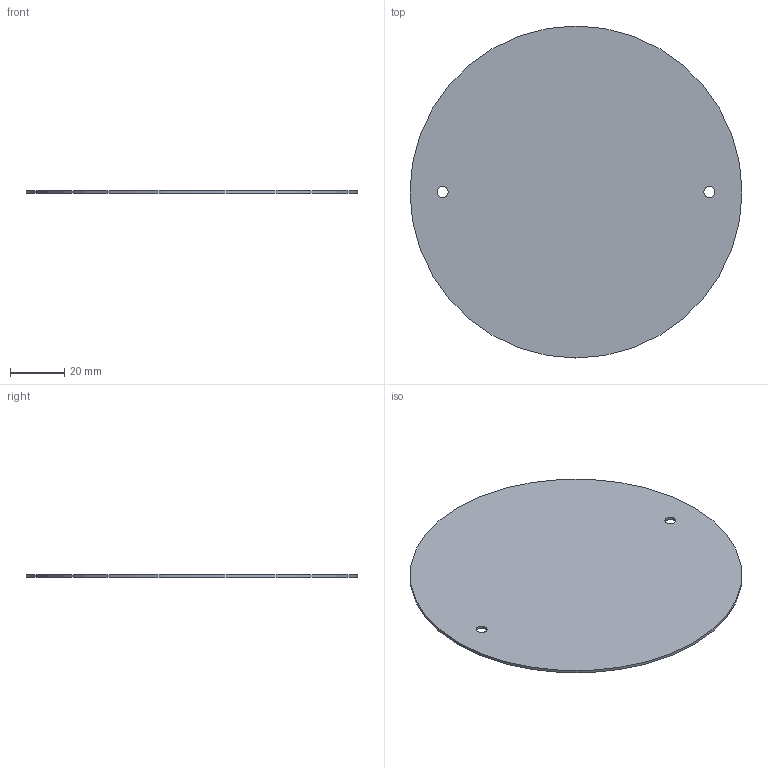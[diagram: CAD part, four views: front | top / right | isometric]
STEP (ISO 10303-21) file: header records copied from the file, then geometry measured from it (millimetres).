
FILE_DESCRIPTION(('Open CASCADE Model'),'2;1');
FILE_NAME('Open CASCADE Shape Model','2026-10-01T15:23:50',('Author'),( 'Open CASCADE'),'Open CASCADE STEP processor 7.9','Open CASCADE 7.9' ,'Unknown');
FILE_SCHEMA(('AUTOMOTIVE_DESIGN { 1 0 10303 214 1 1 1 1 }'));
Length unit declared in the file: millimetre
Products named in the file (1): Open CASCADE STEP translator 7.9 5
Bounding box: 122 x 122 x 1 mm (x, y, z)
Volume: 11664.7 mm3; surface area: 23737.9 mm2
Topology: 1 solids, 1 shells, 5 faces, 9 edges, 6 vertices
Faces by surface type: cylinder 3, plane 2
Full cylindrical faces by diameter (mm): 4 x2, 122 x1
Entity records: 276 total; most frequent: CARTESIAN_POINT 63, DIRECTION 41, ORIENTED_EDGE 18, PCURVE 18, DEFINITIONAL_REPRESENTATION 18, LINE 15, VECTOR 15, AXIS2_PLACEMENT_3D 12
